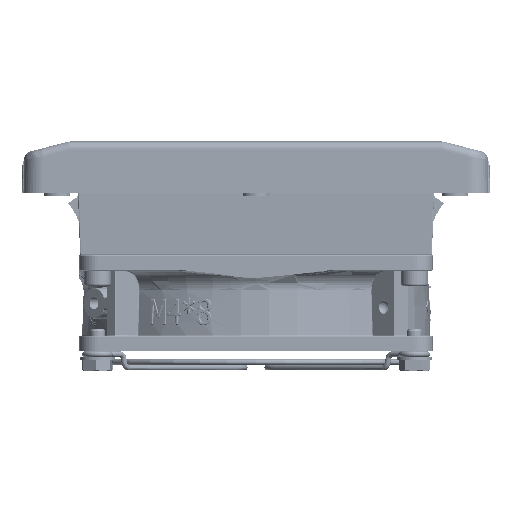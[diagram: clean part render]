
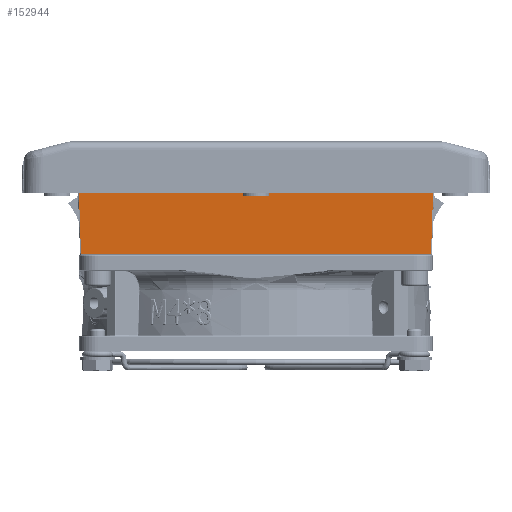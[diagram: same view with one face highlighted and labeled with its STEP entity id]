
A CAD part, front view. The second image highlights one B-rep face of the part: STEP entity #152944.
In plain terms, the highlighted planar face has unit normal (0, -0.999, -0.035).
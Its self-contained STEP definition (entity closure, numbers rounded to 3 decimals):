
#13541=PLANE('',#163087);
#17480=FACE_OUTER_BOUND('',#27094,.T.);
#27094=EDGE_LOOP('',(#104518,#104519,#104520,#104521));
#37422=LINE('',#209578,#48995);
#37611=LINE('',#210286,#49184);
#37612=LINE('',#210290,#49185);
#37613=LINE('',#210291,#49186);
#48995=VECTOR('',#174771,10.);
#49184=VECTOR('',#175032,10.);
#49185=VECTOR('',#175037,10.);
#49186=VECTOR('',#175038,10.);
#65263=VERTEX_POINT('',#209574);
#65264=VERTEX_POINT('',#209576);
#65451=VERTEX_POINT('',#210285);
#65452=VERTEX_POINT('',#210289);
#80207=EDGE_CURVE('',#65264,#65263,#37422,.T.);
#80427=EDGE_CURVE('',#65263,#65451,#37611,.T.);
#80429=EDGE_CURVE('',#65452,#65264,#37612,.T.);
#80430=EDGE_CURVE('',#65451,#65452,#37613,.T.);
#104518=ORIENTED_EDGE('',*,*,#80207,.F.);
#104519=ORIENTED_EDGE('',*,*,#80429,.F.);
#104520=ORIENTED_EDGE('',*,*,#80430,.F.);
#104521=ORIENTED_EDGE('',*,*,#80427,.F.);
#152944=ADVANCED_FACE('',(#17480),#13541,.T.);
#163087=AXIS2_PLACEMENT_3D('',#210288,#175035,#175036);
#174771=DIRECTION('',(-1.,0.,0.));
#175032=DIRECTION('',(-0.035,-0.035,0.999));
#175035=DIRECTION('center_axis',(0.,-0.999,-0.035));
#175036=DIRECTION('ref_axis',(-1.,0.,0.));
#175037=DIRECTION('',(-0.035,0.035,-0.999));
#175038=DIRECTION('',(1.,0.,0.));
#209574=CARTESIAN_POINT('',(-45.536,-45.786,-18.759));
#209576=CARTESIAN_POINT('',(45.536,-45.786,-18.759));
#209578=CARTESIAN_POINT('',(-23.175,-45.786,-18.759));
#210285=CARTESIAN_POINT('',(-46.1,-46.35,-2.6));
#210286=CARTESIAN_POINT('',(-46.044,-46.294,-4.206));
#210288=CARTESIAN_POINT('Origin',(-46.35,-46.35,-2.6));
#210289=CARTESIAN_POINT('',(46.1,-46.35,-2.6));
#210290=CARTESIAN_POINT('',(46.044,-46.294,-4.206));
#210291=CARTESIAN_POINT('',(-23.175,-46.35,-2.6));
